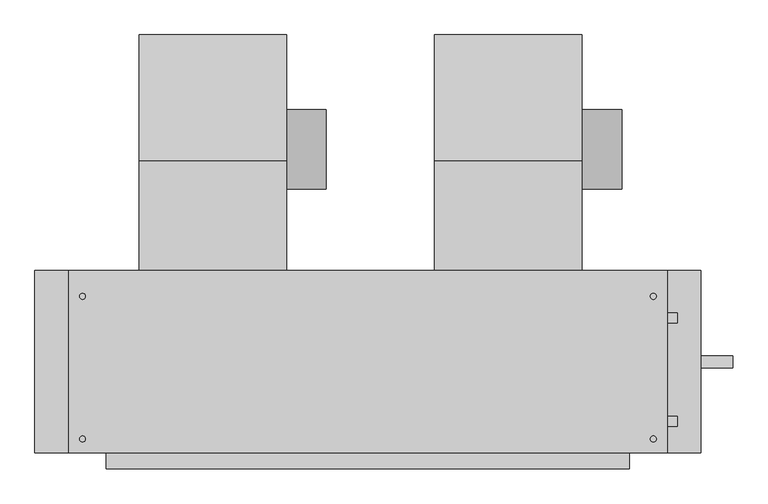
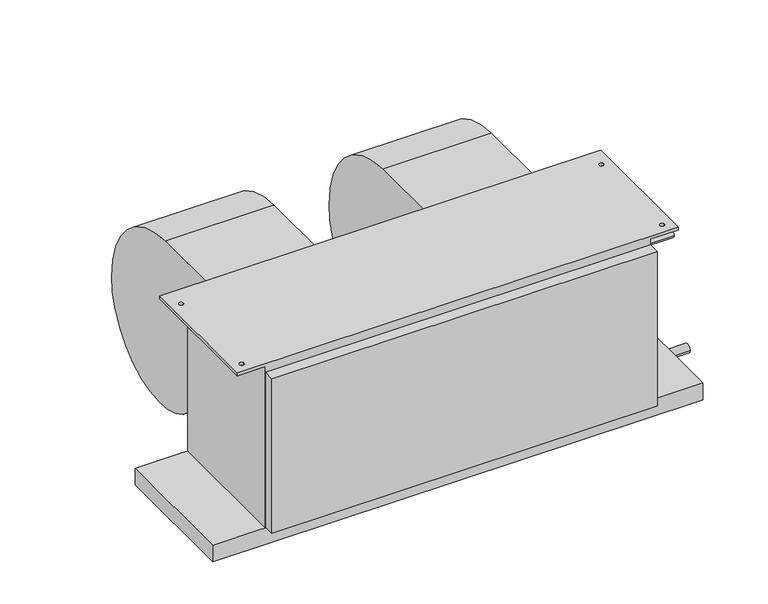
"""IFC4 building model written with IfcOpenShell, lengths in millimetres: proxy geometry, Concealed_High_Capacity_Horizontal_Fan_Coil_Unit_-_42DAA_-_CARRIER_-_2-Pipe_RH_2022 : Size 14 - 277v/60Hz/1Ph - 6 Row 10.0kW."""

from ifc_helpers import new_model, si_unit, point, frame, frame_2d, origin, place, context, project, spatial, polyline, circle_curve, trimmed, segment, composite_curve, outline, extrude, source, transform, mapped, element, save
from ifc_brep_helpers import plane_surface, cylinder_surface, revolved_surface, advanced_brep


def mechanical_equipment_c3af3c27(model_context):
    return source(origin(), model_context, "Body", "SolidModel", [
        extrude(outline(composite_curve([segment(trimmed(circle_curve(frame_2d((102.0007598, -206.8897468)), 63.5), [point((165.5007598, -206.8897468))], [point((38.5007598, -206.8897468))], False, "CARTESIAN"), True, "CONTINUOUS"), segment(trimmed(circle_curve(frame_2d((102.0007598, -206.8897468)), 63.5), [point((38.5007598, -206.8897468))], [point((165.5007598, -206.8897468))], False, "CARTESIAN"), True, "CONTINUOUS")], self_intersect=False)), frame((22.225, 0.0, 0.0), z_axis=(1.0, 0.0, 0.0), x_axis=(0.0, 1.0, 0.0)), (0.0, 0.0, 1.0), 63.5),
        advanced_brep(
        [(-214.249, 285.5155957, -222.029602), (-214.249, 104.6226, -403.64664), (-214.249, -50.9016, -277.10638), (-214.249, -92.075, -277.10638), (-214.249, -92.075, -19.05), (-214.249, 83.0080093, -19.05), (22.225, 285.5155957, -222.029602), (22.225, 83.0080093, -19.05), (22.225, -92.075, -19.05), (22.225, -92.075, -277.10638), (22.225, -50.9016, -277.10638), (22.225, 104.622599, -403.6457839)],
        [
            (0, 1, circle_curve(frame((-214.249, 104.44226, -222.57258), z_axis=(-1.0, 0.0, 0.0), x_axis=(0.0, -1.0, 0.0)), 181.0741498)),
            (1, 2, circle_curve(frame((-214.249, 104.44226, -245.02364), z_axis=(-1.0, 0.0, 0.0), x_axis=(0.0, -1.0, 0.0)), 158.6222464)),
            (2, 3),
            (3, 4),
            (4, 5),
            (5, 0, circle_curve(frame((-214.249, 81.9912, -222.57258), z_axis=(-1.0, 0.0, 0.0), x_axis=(0.0, -1.0, 0.0)), 203.52512)),
            (6, 7, circle_curve(frame((22.225, 81.9912, -222.57258), z_axis=(1.0, 0.0, 0.0), x_axis=(0.0, -1.0, 0.0)), 203.52512)),
            (7, 8),
            (8, 9),
            (9, 10),
            (10, 11, circle_curve(frame((22.225, 104.44226, -245.02364), z_axis=(1.0, 0.0, 0.0), x_axis=(0.0, -1.0, 0.0)), 158.6222464)),
            (11, 6, circle_curve(frame((22.225, 104.44226, -222.57258), z_axis=(1.0, 0.0, 0.0), x_axis=(0.0, -1.0, 0.0)), 181.0741498)),
            (0, 6),
            (11, 1),
            (10, 2),
            (9, 3),
            (8, 4),
            (7, 5),
        ],
        [
            plane_surface(frame((-214.249, -76.6318898, -222.57258), z_axis=(-1.0, 0.0, 0.0), x_axis=(0.0, 0.0, 1.0))),
            plane_surface(frame((22.225, -76.6318898, -222.57258), z_axis=(1.0, 0.0, 0.0), x_axis=(0.0, 0.0, -1.0))),
            cylinder_surface(frame((22.225, 104.44226, -222.57258), z_axis=(-1.0, 0.0, 0.0), x_axis=(0.0, -1.0, 0.0)), 181.0741498),
            cylinder_surface(frame((22.225, 104.44226, -245.02364), z_axis=(-1.0, 0.0, 0.0), x_axis=(0.0, -1.0, 0.0)), 158.6222464),
            plane_surface(frame((-214.249, -50.9016, -277.10638), z_axis=(0.0, 0.0, -1.0), x_axis=(1.0, 0.0, 0.0))),
            plane_surface(frame((-214.249, -92.075, -277.10638), z_axis=(0.0, -1.0, 0.0), x_axis=(1.0, 0.0, 0.0))),
            plane_surface(frame((-214.249, -92.075, -19.05), z_axis=(0.0, 0.0, 1.0), x_axis=(1.0, 0.0, 0.0))),
            cylinder_surface(frame((22.225, 81.9912, -222.57258), z_axis=(-1.0, 0.0, 0.0), x_axis=(0.0, -1.0, 0.0)), 203.52512),
        ],
        [
            (0, [[1, 2, 3, 4, 5, 6]]),
            (1, [[7, 8, 9, 10, 11, 12]]),
            (2, [[-1, 13, -12, 14]]),
            (3, [[-2, -14, -11, 15]]),
            (4, [[-3, -15, -10, 16]]),
            (5, [[-4, -16, -9, 17]]),
            (6, [[-5, -17, -8, 18]]),
            (7, [[-6, -18, -7, -13]]),
        ],
    ),
        extrude(outline(composite_curve([segment(trimmed(circle_curve(frame_2d((102.0007598, -206.8897468)), 63.5), [point((165.5007598, -206.8897468))], [point((38.5007598, -206.8897468))], False, "CARTESIAN"), True, "CONTINUOUS"), segment(trimmed(circle_curve(frame_2d((102.0007598, -206.8897468)), 63.5), [point((38.5007598, -206.8897468))], [point((165.5007598, -206.8897468))], False, "CARTESIAN"), True, "CONTINUOUS")], self_intersect=False)), frame((495.3, 0.0, 0.0), z_axis=(1.0, 0.0, 0.0), x_axis=(0.0, 1.0, 0.0)), (0.0, 0.0, 1.0), 63.5),
        advanced_brep(
        [(258.826, 285.5155957, -222.029602), (258.826, 104.6226, -403.64664), (258.826, -50.9016, -277.10638), (258.826, -92.075, -277.10638), (258.826, -92.075, -19.05), (258.826, 83.0080093, -19.05), (495.3, 285.5155957, -222.029602), (495.3, 83.0080093, -19.05), (495.3, -92.075, -19.05), (495.3, -92.075, -277.10638), (495.3, -50.9016, -277.10638), (495.3, 104.622599, -403.6457839)],
        [
            (0, 1, circle_curve(frame((258.826, 104.44226, -222.57258), z_axis=(-1.0, 0.0, 0.0), x_axis=(0.0, -1.0, 0.0)), 181.0741498)),
            (1, 2, circle_curve(frame((258.826, 104.44226, -245.02364), z_axis=(-1.0, 0.0, 0.0), x_axis=(0.0, -1.0, 0.0)), 158.6222464)),
            (2, 3),
            (3, 4),
            (4, 5),
            (5, 0, circle_curve(frame((258.826, 81.9912, -222.57258), z_axis=(-1.0, 0.0, 0.0), x_axis=(0.0, -1.0, 0.0)), 203.52512)),
            (6, 7, circle_curve(frame((495.3, 81.9912, -222.57258), z_axis=(1.0, 0.0, 0.0), x_axis=(0.0, -1.0, 0.0)), 203.52512)),
            (7, 8),
            (8, 9),
            (9, 10),
            (10, 11, circle_curve(frame((495.3, 104.44226, -245.02364), z_axis=(1.0, 0.0, 0.0), x_axis=(0.0, -1.0, 0.0)), 158.6222464)),
            (11, 6, circle_curve(frame((495.3, 104.44226, -222.57258), z_axis=(1.0, 0.0, 0.0), x_axis=(0.0, -1.0, 0.0)), 181.0741498)),
            (0, 6),
            (11, 1),
            (10, 2),
            (9, 3),
            (8, 4),
            (7, 5),
        ],
        [
            plane_surface(frame((258.826, -76.6318898, -222.57258), z_axis=(-1.0, 0.0, 0.0), x_axis=(0.0, 0.0, 1.0))),
            plane_surface(frame((495.3, -76.6318898, -222.57258), z_axis=(1.0, 0.0, 0.0), x_axis=(0.0, 0.0, -1.0))),
            cylinder_surface(frame((495.3, 104.44226, -222.57258), z_axis=(-1.0, 0.0, 0.0), x_axis=(0.0, -1.0, 0.0)), 181.0741498),
            cylinder_surface(frame((495.3, 104.44226, -245.02364), z_axis=(-1.0, 0.0, 0.0), x_axis=(0.0, -1.0, 0.0)), 158.6222464),
            plane_surface(frame((258.826, -50.9016, -277.10638), z_axis=(0.0, 0.0, -1.0), x_axis=(1.0, 0.0, 0.0))),
            plane_surface(frame((258.826, -92.075, -277.10638), z_axis=(0.0, -1.0, 0.0), x_axis=(1.0, 0.0, 0.0))),
            plane_surface(frame((258.826, -92.075, -19.05), z_axis=(0.0, 0.0, 1.0), x_axis=(1.0, 0.0, 0.0))),
            cylinder_surface(frame((495.3, 81.9912, -222.57258), z_axis=(-1.0, 0.0, 0.0), x_axis=(0.0, -1.0, 0.0)), 203.52512),
        ],
        [
            (0, [[1, 2, 3, 4, 5, 6]]),
            (1, [[7, 8, 9, 10, 11, 12]]),
            (2, [[-1, 13, -12, 14]]),
            (3, [[-2, -14, -11, 15]]),
            (4, [[-3, -15, -10, 16]]),
            (5, [[-4, -16, -9, 17]]),
            (6, [[-5, -17, -8, 18]]),
            (7, [[-6, -18, -7, -13]]),
        ],
    ),
        advanced_brep(
        [(631.825, -92.075, -6.35), (631.825, -384.175, -6.35), (571.5, -384.175, -6.35), (571.5, -92.075, -6.35), (604.8375, -133.35, -6.35), (614.3625, -133.35, -6.35), (604.8375, -361.95, -6.35), (614.3625, -361.95, -6.35), (-327.025, -92.075, -6.35), (-266.7, -92.075, -6.35), (-266.7, -384.175, -6.35), (-327.025, -384.175, -6.35), (-309.5625, -133.35, -6.35), (-300.0375, -133.35, -6.35), (-309.5625, -361.95, -6.35), (-300.0375, -361.95, -6.35), (631.825, -384.175, 0.0), (631.825, -92.075, 0.0), (-327.025, -92.075, 0.0), (-327.025, -384.175, 0.0), (-300.0375, -133.35, 0.0), (-309.5625, -133.35, 0.0), (-300.0375, -361.95, 0.0), (-309.5625, -361.95, 0.0), (614.3625, -133.35, 0.0), (604.8375, -133.35, 0.0), (614.3625, -361.95, 0.0), (604.8375, -361.95, 0.0), (571.5, -92.075, -377.825), (-266.7, -92.075, -377.825), (-266.7, -384.175, -377.825), (571.5, -384.175, -377.825)],
        [
            (0, 1),
            (1, 2),
            (2, 3),
            (3, 0),
            (4, 5, circle_curve(frame((609.6, -133.35, -6.35), z_axis=(0.0, 0.0, 1.0), x_axis=(1.0, 0.0, 0.0)), 4.7625)),
            (5, 4, circle_curve(frame((609.6, -133.35, -6.35), z_axis=(0.0, 0.0, 1.0), x_axis=(1.0, 0.0, 0.0)), 4.7625)),
            (6, 7, circle_curve(frame((609.6, -361.95, -6.35), z_axis=(0.0, 0.0, 1.0), x_axis=(1.0, 0.0, 0.0)), 4.7625)),
            (7, 6, circle_curve(frame((609.6, -361.95, -6.35), z_axis=(0.0, 0.0, 1.0), x_axis=(1.0, 0.0, 0.0)), 4.7625)),
            (8, 9),
            (9, 10),
            (10, 11),
            (11, 8),
            (12, 13, circle_curve(frame((-304.8, -133.35, -6.35), z_axis=(0.0, 0.0, 1.0), x_axis=(1.0, 0.0, 0.0)), 4.7625)),
            (13, 12, circle_curve(frame((-304.8, -133.35, -6.35), z_axis=(0.0, 0.0, 1.0), x_axis=(1.0, 0.0, 0.0)), 4.7625)),
            (14, 15, circle_curve(frame((-304.8, -361.95, -6.35), z_axis=(0.0, 0.0, 1.0), x_axis=(1.0, 0.0, 0.0)), 4.7625)),
            (15, 14, circle_curve(frame((-304.8, -361.95, -6.35), z_axis=(0.0, 0.0, 1.0), x_axis=(1.0, 0.0, 0.0)), 4.7625)),
            (16, 17),
            (17, 18),
            (18, 19),
            (19, 16),
            (20, 21, circle_curve(frame((-304.8, -133.35, 0.0), z_axis=(0.0, 0.0, -1.0), x_axis=(1.0, 0.0, 0.0)), 4.7625)),
            (21, 20, circle_curve(frame((-304.8, -133.35, 0.0), z_axis=(0.0, 0.0, -1.0), x_axis=(1.0, 0.0, 0.0)), 4.7625)),
            (22, 23, circle_curve(frame((-304.8, -361.95, 0.0), z_axis=(0.0, 0.0, -1.0), x_axis=(1.0, 0.0, 0.0)), 4.7625)),
            (23, 22, circle_curve(frame((-304.8, -361.95, 0.0), z_axis=(0.0, 0.0, -1.0), x_axis=(1.0, 0.0, 0.0)), 4.7625)),
            (24, 25, circle_curve(frame((609.6, -133.35, 0.0), z_axis=(0.0, 0.0, -1.0), x_axis=(1.0, 0.0, 0.0)), 4.7625)),
            (25, 24, circle_curve(frame((609.6, -133.35, 0.0), z_axis=(0.0, 0.0, -1.0), x_axis=(1.0, 0.0, 0.0)), 4.7625)),
            (26, 27, circle_curve(frame((609.6, -361.95, 0.0), z_axis=(0.0, 0.0, -1.0), x_axis=(1.0, 0.0, 0.0)), 4.7625)),
            (27, 26, circle_curve(frame((609.6, -361.95, 0.0), z_axis=(0.0, 0.0, -1.0), x_axis=(1.0, 0.0, 0.0)), 4.7625)),
            (3, 28),
            (28, 29),
            (29, 9),
            (8, 18),
            (17, 0),
            (1, 16),
            (19, 11),
            (10, 30),
            (30, 31),
            (31, 2),
            (28, 31),
            (30, 29),
            (20, 13),
            (12, 21),
            (22, 15),
            (14, 23),
            (24, 5),
            (4, 25),
            (26, 7),
            (6, 27),
        ],
        [
            plane_surface(frame((571.5, -92.075, -6.35), z_axis=(0.0, 0.0, -1.0), x_axis=(1.0, 0.0, 0.0))),
            plane_surface(frame((571.5, -92.075, 0.0), z_axis=(0.0, 0.0, 1.0), x_axis=(-1.0, 0.0, 0.0))),
            plane_surface(frame((631.825, -92.075, 0.0), z_axis=(0.0, 1.0, 0.0), x_axis=(0.0, 0.0, -1.0))),
            plane_surface(frame((571.5, -384.175, 0.0), z_axis=(0.0, -1.0, 0.0), x_axis=(0.0, 0.0, -1.0))),
            plane_surface(frame((631.825, -384.175, 0.0), z_axis=(1.0, 0.0, 0.0), x_axis=(0.0, 0.0, -1.0))),
            plane_surface(frame((-327.025, -92.075, 0.0), z_axis=(-1.0, 0.0, 0.0), x_axis=(0.0, 0.0, -1.0))),
            plane_surface(frame((-266.7, -92.075, -377.825), z_axis=(0.0, 0.0, -1.0), x_axis=(1.0, 0.0, 0.0))),
            plane_surface(frame((-266.7, -92.075, 0.0), z_axis=(-1.0, 0.0, 0.0), x_axis=(0.0, 0.0, -1.0))),
            plane_surface(frame((571.5, -384.175, 0.0), z_axis=(1.0, 0.0, 0.0), x_axis=(0.0, 0.0, -1.0))),
            revolved_surface(polyline([(-300.0375, -133.35, 0.0), (-300.0375, -133.35, -6.35)]), (-304.8, -133.35, -6.35), (0.0, 0.0, 1.0)),
            revolved_surface(polyline([(-300.0375, -361.95, 0.0), (-300.0375, -361.95, -6.35)]), (-304.8, -361.95, 0.0), (0.0, 0.0, 1.0)),
            revolved_surface(polyline([(614.3625000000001, -133.35, 0.0), (614.3625000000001, -133.35, -6.35)]), (609.6, -133.35, 0.0), (0.0, 0.0, 1.0)),
            revolved_surface(polyline([(614.3625000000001, -361.95, 0.0), (614.3625000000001, -361.95, -6.35)]), (609.6, -361.95, 0.0), (0.0, 0.0, 1.0)),
        ],
        [
            (0, [[1, 2, 3, 4], [5, 6], [7, 8]]),
            (0, [[9, 10, 11, 12], [13, 14], [15, 16]]),
            (1, [[17, 18, 19, 20], [21, 22], [23, 24], [25, 26], [27, 28]]),
            (2, [[-4, 29, 30, 31, -9, 32, -18, 33]]),
            (3, [[-2, 34, -20, 35, -11, 36, 37, 38]]),
            (4, [[-1, -33, -17, -34]]),
            (5, [[-12, -35, -19, -32]]),
            (6, [[39, -37, 40, -30]]),
            (7, [[-40, -36, -10, -31]]),
            (8, [[-39, -29, -3, -38]]),
            (9, [[41, -13, 42, -21]]),
            (9, [[-41, -22, -42, -14]]),
            (10, [[43, -15, 44, -23]]),
            (10, [[-43, -24, -44, -16]]),
            (11, [[45, -5, 46, -25]]),
            (11, [[-45, -26, -46, -6]]),
            (12, [[47, -7, 48, -27]]),
            (12, [[-47, -28, -48, -8]]),
        ],
    ),
        extrude(outline(composite_curve([segment(trimmed(circle_curve(frame_2d((-238.125, -403.225)), 9.525), [point((-228.6, -403.225))], [point((-247.65, -403.225))], False, "CARTESIAN"), True, "CONTINUOUS"), segment(trimmed(circle_curve(frame_2d((-238.125, -403.225)), 9.525), [point((-247.65, -403.225))], [point((-228.6, -403.225))], False, "CARTESIAN"), True, "CONTINUOUS")], self_intersect=False)), frame((685.8, 0.0, 0.0), z_axis=(1.0, 0.0, 0.0), x_axis=(0.0, 1.0, 0.0)), (0.0, 0.0, 1.0), 50.8),
        extrude(outline(composite_curve([segment(trimmed(circle_curve(frame_2d((-333.375, -50.8)), 7.9375), [point((-325.4375, -50.8))], [point((-341.3125, -50.8))], False, "CARTESIAN"), True, "CONTINUOUS"), segment(trimmed(circle_curve(frame_2d((-333.375, -50.8)), 7.9375), [point((-341.3125, -50.8))], [point((-325.4375, -50.8))], False, "CARTESIAN"), True, "CONTINUOUS")], self_intersect=False)), frame((571.5, 0.0, 0.0), z_axis=(1.0, 0.0, 0.0), x_axis=(0.0, 1.0, 0.0)), (0.0, 0.0, 1.0), 76.2),
        extrude(outline(composite_curve([segment(trimmed(circle_curve(frame_2d((-168.275, -327.025)), 7.9375), [point((-160.3375, -327.025))], [point((-176.2125, -327.025))], False, "CARTESIAN"), True, "CONTINUOUS"), segment(trimmed(circle_curve(frame_2d((-168.275, -327.025)), 7.9375), [point((-176.2125, -327.025))], [point((-160.3375, -327.025))], False, "CARTESIAN"), True, "CONTINUOUS")], self_intersect=False)), frame((571.5, 0.0, 0.0), z_axis=(1.0, 0.0, 0.0), x_axis=(0.0, 1.0, 0.0)), (0.0, 0.0, 1.0), 76.2),
        extrude(outline(polyline([(571.5, -409.575), (-266.7, -409.575), (-266.7, -384.175), (571.5, -384.175), (571.5, -409.575)])), frame((0.0, 0.0, -374.65), z_axis=(0.0, 0.0, 1.0), x_axis=(1.0, 0.0, 0.0)), (0.0, 0.0, 1.0), 355.6),
        extrude(outline(polyline([(685.8, -92.075), (685.8, -384.175), (-381.0, -384.175), (-381.0, -92.075), (685.8, -92.075)])), frame((0.0, 0.0, -415.925), z_axis=(0.0, 0.0, 1.0), x_axis=(1.0, 0.0, 0.0)), (0.0, 0.0, 1.0), 38.1),
    ])


if __name__ == "__main__":
    model = new_model("IFC4")
    model_context = context("Model", 3, world=origin())
    ifc_project = project(units=[si_unit("LENGTHUNIT", "METRE", prefix="MILLI")], contexts=[model_context])
    site = spatial("IfcSite", under=ifc_project)
    building = spatial("IfcBuilding", under=site)
    placement = place(None, origin())
    mechanical_equipment_shape = mechanical_equipment_c3af3c27(model_context)
    element("IfcBuildingElementProxy", 1, Name="Concealed_High_Capacity_Horizontal_Fan_Coil_Unit_-_42DAA_-_CARRIER_-_2-Pipe_RH_2022 : Size 14 - 277v/60Hz/1Ph - 6 Row 10.0kW", ObjectType="Concealed_High_Capacity_Horizontal_Fan_Coil_Unit_-_42DAA_-_CARRIER_-_2-Pipe_RH_2022 : Size 14 - 277v/60Hz/1Ph - 6 Row 10.0kW", at=placement, inside=building, context=model_context, shape_type="MappedRepresentation", body=[
        mapped(mechanical_equipment_shape, transform((0.0, 0.0, 0.0), x_axis=(1.0, 0.0, 0.0), y_axis=(0.0, 1.0, 0.0), z_axis=(0.0, 0.0, 1.0))),
    ])
    save(model, "model.ifc")
